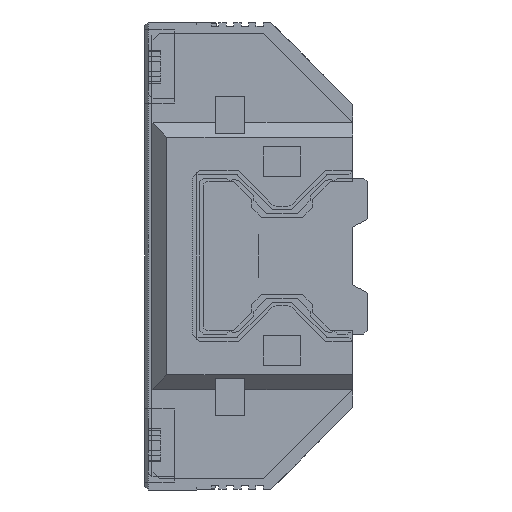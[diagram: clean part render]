
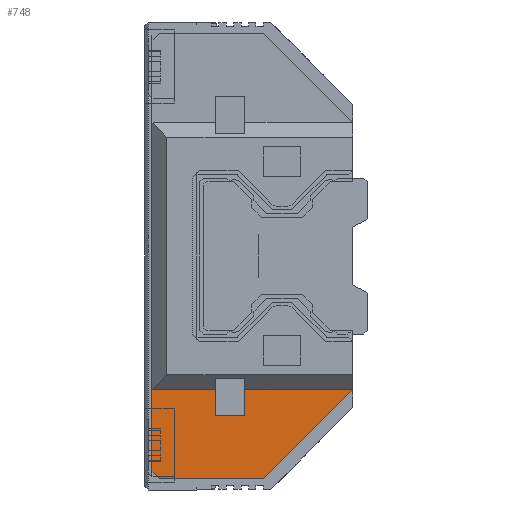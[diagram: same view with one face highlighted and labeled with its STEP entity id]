
A CAD part, left-side view. The second image highlights one B-rep face of the part: STEP entity #748.
In plain terms, the highlighted planar face has unit normal (-1, 0, 0).
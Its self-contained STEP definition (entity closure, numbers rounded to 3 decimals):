
#748 = ADVANCED_FACE( '', ( #2411 ), #2412, .T. );
#2411 = FACE_OUTER_BOUND( '', #4219, .T. );
#2412 = PLANE( '', #4220 );
#4219 = EDGE_LOOP( '', ( #8701, #8702, #8703, #8704, #8705, #8706, #8707, #8708, #8709 ) );
#4220 = AXIS2_PLACEMENT_3D( '', #8710, #8711, #8712 );
#8701 = ORIENTED_EDGE( '', *, *, #11173, .F. );
#8702 = ORIENTED_EDGE( '', *, *, #10964, .F. );
#8703 = ORIENTED_EDGE( '', *, *, #10949, .F. );
#8704 = ORIENTED_EDGE( '', *, *, #10992, .F. );
#8705 = ORIENTED_EDGE( '', *, *, #10990, .F. );
#8706 = ORIENTED_EDGE( '', *, *, #10988, .F. );
#8707 = ORIENTED_EDGE( '', *, *, #10961, .F. );
#8708 = ORIENTED_EDGE( '', *, *, #11174, .T. );
#8709 = ORIENTED_EDGE( '', *, *, #11172, .T. );
#8710 = CARTESIAN_POINT( '', ( -49., 46., -18. ) );
#8711 = DIRECTION( '', ( -1., 0., 0. ) );
#8712 = DIRECTION( '', ( 0., 0., 1. ) );
#10949 = EDGE_CURVE( '', #13460, #13461, #13462, .T. );
#10961 = EDGE_CURVE( '', #13481, #13483, #13484, .T. );
#10964 = EDGE_CURVE( '', #13461, #13477, #13487, .T. );
#10988 = EDGE_CURVE( '', #13483, #13527, #13528, .T. );
#10990 = EDGE_CURVE( '', #13527, #13530, #13531, .T. );
#10992 = EDGE_CURVE( '', #13530, #13460, #13533, .T. );
#11172 = EDGE_CURVE( '', #13819, #13821, #13823, .T. );
#11173 = EDGE_CURVE( '', #13477, #13821, #13824, .T. );
#11174 = EDGE_CURVE( '', #13481, #13819, #13825, .T. );
#13460 = VERTEX_POINT( '', #16894 );
#13461 = VERTEX_POINT( '', #16895 );
#13462 = LINE( '', #16896, #16897 );
#13477 = VERTEX_POINT( '', #16920 );
#13481 = VERTEX_POINT( '', #16926 );
#13483 = VERTEX_POINT( '', #16929 );
#13484 = LINE( '', #16930, #16931 );
#13487 = LINE( '', #16936, #16937 );
#13527 = VERTEX_POINT( '', #17000 );
#13528 = LINE( '', #17001, #17002 );
#13530 = VERTEX_POINT( '', #17005 );
#13531 = LINE( '', #17006, #17007 );
#13533 = LINE( '', #17010, #17011 );
#13819 = VERTEX_POINT( '', #17460 );
#13821 = VERTEX_POINT( '', #17463 );
#13823 = LINE( '', #17466, #17467 );
#13824 = LINE( '', #17468, #17469 );
#13825 = LINE( '', #17470, #17471 );
#16894 = CARTESIAN_POINT( '', ( -49., 17.7, -29. ) );
#16895 = CARTESIAN_POINT( '', ( -49., 17.7, -18. ) );
#16896 = CARTESIAN_POINT( '', ( -49., 17.7, -29. ) );
#16897 = VECTOR( '', #20197, 1000. );
#16920 = CARTESIAN_POINT( '', ( -49., 9.2, -18. ) );
#16926 = CARTESIAN_POINT( '', ( -49., 5.2, -18. ) );
#16929 = CARTESIAN_POINT( '', ( -49., -9.3, -18. ) );
#16930 = CARTESIAN_POINT( '', ( -49., 46., -18. ) );
#16931 = VECTOR( '', #20209, 1000. );
#16936 = CARTESIAN_POINT( '', ( -49., 46., -18. ) );
#16937 = VECTOR( '', #20212, 1000. );
#17000 = CARTESIAN_POINT( '', ( -49., 2.7, -30. ) );
#17001 = CARTESIAN_POINT( '', ( -49., -9.3, -18. ) );
#17002 = VECTOR( '', #20236, 1000. );
#17005 = CARTESIAN_POINT( '', ( -49., 16.7, -30. ) );
#17006 = CARTESIAN_POINT( '', ( -49., 2.7, -30. ) );
#17007 = VECTOR( '', #20238, 1000. );
#17010 = CARTESIAN_POINT( '', ( -49., 16.7, -30. ) );
#17011 = VECTOR( '', #20240, 1000. );
#17460 = CARTESIAN_POINT( '', ( -49., 5.2, -21.5 ) );
#17463 = CARTESIAN_POINT( '', ( -49., 9.2, -21.5 ) );
#17466 = CARTESIAN_POINT( '', ( -49., 46., -21.5 ) );
#17467 = VECTOR( '', #20448, 1000. );
#17468 = CARTESIAN_POINT( '', ( -49., 9.2, -18. ) );
#17469 = VECTOR( '', #20449, 1000. );
#17470 = CARTESIAN_POINT( '', ( -49., 5.2, -18. ) );
#17471 = VECTOR( '', #20450, 1000. );
#20197 = DIRECTION( '', ( 0., 0., 1. ) );
#20209 = DIRECTION( '', ( 0., -1., 0. ) );
#20212 = DIRECTION( '', ( 0., -1., 0. ) );
#20236 = DIRECTION( '', ( 0., 0.707, -0.707 ) );
#20238 = DIRECTION( '', ( 0., 1., 0. ) );
#20240 = DIRECTION( '', ( 0., 0.707, 0.707 ) );
#20448 = DIRECTION( '', ( 0., 1., 0. ) );
#20449 = DIRECTION( '', ( 0., 0., -1. ) );
#20450 = DIRECTION( '', ( 0., 0., -1. ) );
